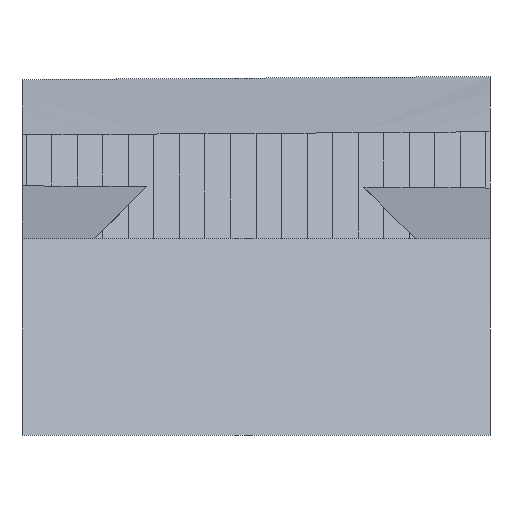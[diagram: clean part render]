
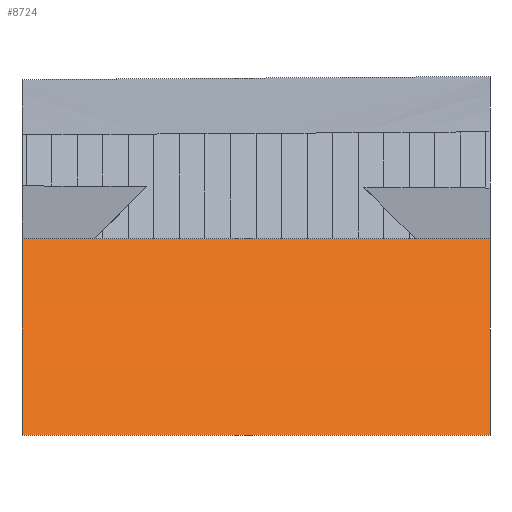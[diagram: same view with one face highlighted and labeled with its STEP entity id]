
A CAD part, front view. The second image highlights one B-rep face of the part: STEP entity #8724.
In plain terms, the highlighted cylindrical face has radius 18.85 mm (diameter 37.7 mm), a partial arc.
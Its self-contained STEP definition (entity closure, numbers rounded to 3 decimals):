
#34 = PLANE('',#35);
#35 = AXIS2_PLACEMENT_3D('',#36,#37,#38);
#36 = CARTESIAN_POINT('',(292.,-19.,10.5));
#37 = DIRECTION('',(1.,0.,-0.));
#38 = DIRECTION('',(0.,0.,1.));
#763 = VERTEX_POINT('',#764);
#764 = CARTESIAN_POINT('',(292.,-13.45,13.207));
#778 = PLANE('',#779);
#779 = AXIS2_PLACEMENT_3D('',#780,#781,#782);
#780 = CARTESIAN_POINT('',(291.273,-13.45,18.654));
#781 = DIRECTION('',(0.,1.,0.));
#782 = DIRECTION('',(0.,0.,1.));
#790 = EDGE_CURVE('',#791,#763,#793,.T.);
#791 = VERTEX_POINT('',#792);
#792 = CARTESIAN_POINT('',(292.,-16.563,9.));
#793 = SURFACE_CURVE('',#794,(#799,#810),.PCURVE_S1.);
#794 = CIRCLE('',#795,18.85);
#795 = AXIS2_PLACEMENT_3D('',#796,#797,#798);
#796 = CARTESIAN_POINT('',(292.,0.,0.));
#797 = DIRECTION('',(-1.,0.,0.));
#798 = DIRECTION('',(0.,-0.879,0.477));
#799 = PCURVE('',#34,#800);
#800 = DEFINITIONAL_REPRESENTATION('',(#801),#809);
#801 = ( BOUNDED_CURVE() B_SPLINE_CURVE(2,(#802,#803,#804,#805,#806,#807
,#808),.UNSPECIFIED.,.T.,.F.) B_SPLINE_CURVE_WITH_KNOTS((1,2,2,2,2,1),(
    -2.094,0.,2.094,4.189,6.283,
8.378),.UNSPECIFIED.) CURVE() GEOMETRIC_REPRESENTATION_ITEM() 
RATIONAL_B_SPLINE_CURVE((1.,0.5,1.,0.5,1.,0.5,1.)) REPRESENTATION_ITEM(
  '') );
#802 = CARTESIAN_POINT('',(-1.5,-2.437));
#803 = CARTESIAN_POINT('',(27.187,-18.026));
#804 = CARTESIAN_POINT('',(-0.656,-35.076));
#805 = CARTESIAN_POINT('',(-28.5,-52.125));
#806 = CARTESIAN_POINT('',(-29.344,-19.487));
#807 = CARTESIAN_POINT('',(-30.187,13.151));
#808 = CARTESIAN_POINT('',(-1.5,-2.437));
#809 = ( GEOMETRIC_REPRESENTATION_CONTEXT(2) 
PARAMETRIC_REPRESENTATION_CONTEXT() REPRESENTATION_CONTEXT('2D SPACE',''
  ) );
#810 = PCURVE('',#811,#816);
#811 = CYLINDRICAL_SURFACE('',#812,18.85);
#812 = AXIS2_PLACEMENT_3D('',#813,#814,#815);
#813 = CARTESIAN_POINT('',(287.,0.,0.));
#814 = DIRECTION('',(1.,0.,0.));
#815 = DIRECTION('',(-0.,0.,1.));
#816 = DEFINITIONAL_REPRESENTATION('',(#817),#821);
#817 = LINE('',#818,#819);
#818 = CARTESIAN_POINT('',(1.073,5.));
#819 = VECTOR('',#820,1.);
#820 = DIRECTION('',(-1.,-0.));
#821 = ( GEOMETRIC_REPRESENTATION_CONTEXT(2) 
PARAMETRIC_REPRESENTATION_CONTEXT() REPRESENTATION_CONTEXT('2D SPACE',''
  ) );
#839 = PLANE('',#840);
#840 = AXIS2_PLACEMENT_3D('',#841,#842,#843);
#841 = CARTESIAN_POINT('',(292.,-19.,9.));
#842 = DIRECTION('',(0.,0.,1.));
#843 = DIRECTION('',(1.,0.,-0.));
#1248 = PLANE('',#1249);
#1249 = AXIS2_PLACEMENT_3D('',#1250,#1251,#1252);
#1250 = CARTESIAN_POINT('',(302.,-19.,10.5));
#1251 = DIRECTION('',(1.,0.,-0.));
#1252 = DIRECTION('',(0.,0.,1.));
#2118 = VERTEX_POINT('',#2119);
#2119 = CARTESIAN_POINT('',(302.,-13.45,13.207));
#2140 = EDGE_CURVE('',#2141,#2118,#2143,.T.);
#2141 = VERTEX_POINT('',#2142);
#2142 = CARTESIAN_POINT('',(302.,-16.563,9.));
#2143 = SURFACE_CURVE('',#2144,(#2149,#2160),.PCURVE_S1.);
#2144 = CIRCLE('',#2145,18.85);
#2145 = AXIS2_PLACEMENT_3D('',#2146,#2147,#2148);
#2146 = CARTESIAN_POINT('',(302.,0.,0.));
#2147 = DIRECTION('',(-1.,0.,0.));
#2148 = DIRECTION('',(0.,-0.879,0.477));
#2149 = PCURVE('',#1248,#2150);
#2150 = DEFINITIONAL_REPRESENTATION('',(#2151),#2159);
#2151 = ( BOUNDED_CURVE() B_SPLINE_CURVE(2,(#2152,#2153,#2154,#2155,
#2156,#2157,#2158),.UNSPECIFIED.,.T.,.F.) B_SPLINE_CURVE_WITH_KNOTS((1,2
    ,2,2,2,1),(-2.094,0.,2.094,4.189,
6.283,8.378),.UNSPECIFIED.) CURVE() 
GEOMETRIC_REPRESENTATION_ITEM() RATIONAL_B_SPLINE_CURVE((1.,0.5,1.,0.5,
1.,0.5,1.)) REPRESENTATION_ITEM('') );
#2152 = CARTESIAN_POINT('',(-1.5,-2.437));
#2153 = CARTESIAN_POINT('',(27.187,-18.026));
#2154 = CARTESIAN_POINT('',(-0.656,-35.076));
#2155 = CARTESIAN_POINT('',(-28.5,-52.125));
#2156 = CARTESIAN_POINT('',(-29.344,-19.487));
#2157 = CARTESIAN_POINT('',(-30.187,13.151));
#2158 = CARTESIAN_POINT('',(-1.5,-2.437));
#2159 = ( GEOMETRIC_REPRESENTATION_CONTEXT(2) 
PARAMETRIC_REPRESENTATION_CONTEXT() REPRESENTATION_CONTEXT('2D SPACE',''
  ) );
#2160 = PCURVE('',#811,#2161);
#2161 = DEFINITIONAL_REPRESENTATION('',(#2162),#2166);
#2162 = LINE('',#2163,#2164);
#2163 = CARTESIAN_POINT('',(1.073,15.));
#2164 = VECTOR('',#2165,1.);
#2165 = DIRECTION('',(-1.,-0.));
#2166 = ( GEOMETRIC_REPRESENTATION_CONTEXT(2) 
PARAMETRIC_REPRESENTATION_CONTEXT() REPRESENTATION_CONTEXT('2D SPACE',''
  ) );
#8704 = EDGE_CURVE('',#791,#2141,#8705,.T.);
#8705 = SURFACE_CURVE('',#8706,(#8710,#8716),.PCURVE_S1.);
#8706 = LINE('',#8707,#8708);
#8707 = CARTESIAN_POINT('',(287.,-16.563,9.));
#8708 = VECTOR('',#8709,1.);
#8709 = DIRECTION('',(1.,0.,0.));
#8710 = PCURVE('',#839,#8711);
#8711 = DEFINITIONAL_REPRESENTATION('',(#8712),#8715);
#8712 = B_SPLINE_CURVE_WITH_KNOTS('',1,(#8713,#8714),.UNSPECIFIED.,.F.,
  .F.,(2,2),(4.,16.),.PIECEWISE_BEZIER_KNOTS.);
#8713 = CARTESIAN_POINT('',(-1.,2.437));
#8714 = CARTESIAN_POINT('',(11.,2.437));
#8715 = ( GEOMETRIC_REPRESENTATION_CONTEXT(2) 
PARAMETRIC_REPRESENTATION_CONTEXT() REPRESENTATION_CONTEXT('2D SPACE',''
  ) );
#8716 = PCURVE('',#811,#8717);
#8717 = DEFINITIONAL_REPRESENTATION('',(#8718),#8721);
#8718 = B_SPLINE_CURVE_WITH_KNOTS('',1,(#8719,#8720),.UNSPECIFIED.,.F.,
  .F.,(2,2),(4.,16.),.PIECEWISE_BEZIER_KNOTS.);
#8719 = CARTESIAN_POINT('',(1.073,4.));
#8720 = CARTESIAN_POINT('',(1.073,16.));
#8721 = ( GEOMETRIC_REPRESENTATION_CONTEXT(2) 
PARAMETRIC_REPRESENTATION_CONTEXT() REPRESENTATION_CONTEXT('2D SPACE',''
  ) );
#8724 = ADVANCED_FACE('',(#8725),#811,.T.);
#8725 = FACE_BOUND('',#8726,.T.);
#8726 = EDGE_LOOP('',(#8727,#8746,#8747,#8748));
#8727 = ORIENTED_EDGE('',*,*,#8728,.F.);
#8728 = EDGE_CURVE('',#763,#2118,#8729,.T.);
#8729 = SURFACE_CURVE('',#8730,(#8734,#8740),.PCURVE_S1.);
#8730 = LINE('',#8731,#8732);
#8731 = CARTESIAN_POINT('',(287.,-13.45,13.207));
#8732 = VECTOR('',#8733,1.);
#8733 = DIRECTION('',(1.,0.,0.));
#8734 = PCURVE('',#811,#8735);
#8735 = DEFINITIONAL_REPRESENTATION('',(#8736),#8739);
#8736 = B_SPLINE_CURVE_WITH_KNOTS('',1,(#8737,#8738),.UNSPECIFIED.,.F.,
  .F.,(2,2),(5.,15.),.PIECEWISE_BEZIER_KNOTS.);
#8737 = CARTESIAN_POINT('',(0.795,5.));
#8738 = CARTESIAN_POINT('',(0.795,15.));
#8739 = ( GEOMETRIC_REPRESENTATION_CONTEXT(2) 
PARAMETRIC_REPRESENTATION_CONTEXT() REPRESENTATION_CONTEXT('2D SPACE',''
  ) );
#8740 = PCURVE('',#778,#8741);
#8741 = DEFINITIONAL_REPRESENTATION('',(#8742),#8745);
#8742 = B_SPLINE_CURVE_WITH_KNOTS('',1,(#8743,#8744),.UNSPECIFIED.,.F.,
  .F.,(2,2),(5.,15.),.PIECEWISE_BEZIER_KNOTS.);
#8743 = CARTESIAN_POINT('',(-5.447,0.727));
#8744 = CARTESIAN_POINT('',(-5.447,10.727));
#8745 = ( GEOMETRIC_REPRESENTATION_CONTEXT(2) 
PARAMETRIC_REPRESENTATION_CONTEXT() REPRESENTATION_CONTEXT('2D SPACE',''
  ) );
#8746 = ORIENTED_EDGE('',*,*,#790,.F.);
#8747 = ORIENTED_EDGE('',*,*,#8704,.T.);
#8748 = ORIENTED_EDGE('',*,*,#2140,.T.);
